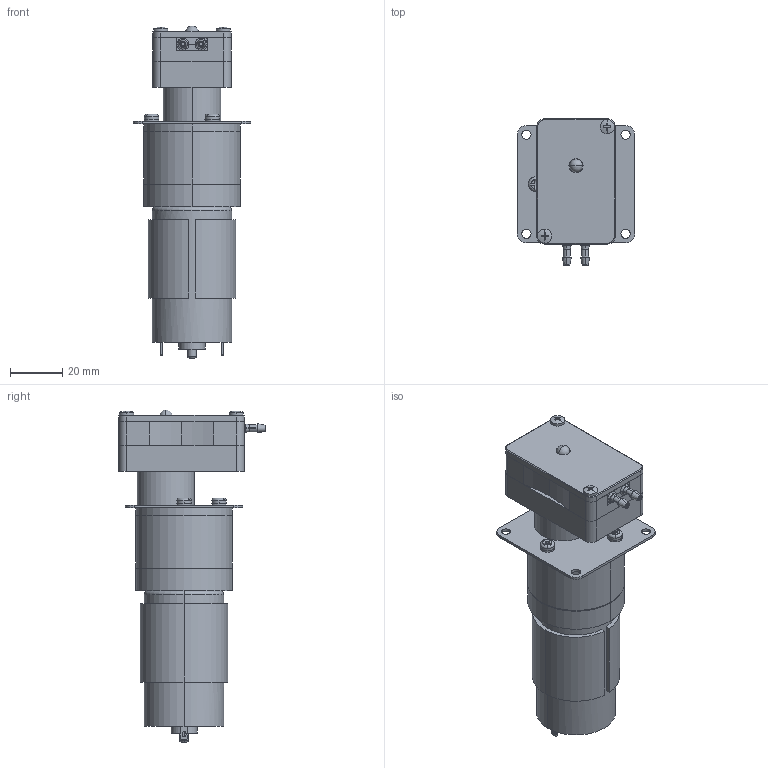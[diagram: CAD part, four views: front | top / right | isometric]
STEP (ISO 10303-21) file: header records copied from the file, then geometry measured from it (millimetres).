
FILE_DESCRIPTION (( 'STEP AP214' ), '1' );
FILE_NAME ('RP-H02S-10A-DC24V - 3452_forWEB.STEP', '2023-11-01T06:36:30', ( '' ), ( '' ), 'SwSTEP 2.0', 'SolidWorks 2023', '' );
FILE_SCHEMA (( 'AUTOMOTIVE_DESIGN' ));
Length unit declared in the file: millimetre
Products named in the file (15): RP-G3N_JOINER_R1_forWEB; MOTOR SCREW_P2; RP-H02S-10A-DC24V - 3452_forWEB_PumpBassAssy; RP-H02S-10A-DC24V - 3452_forWEB; M26x10_Pタイト_CSPBDS2B-ST-TP2_6-10; RIVETRS-STN-W4-8-forWEB_RIVETRS-STN-W4-8; RP-H02S-10A-DC24V - 3452_forWEB_PumpHeadAssy; MOTOR PLATE; hm_4_forWEB; COVER; TP-3452A; TP-3452A-PHM-50-24 ; BASE_forWEB; ROTOR_forWEB; PUMP CASE -A_forWEB
Assembly tree (19 placements, depth 4):
  RP-H02S-10A-DC24V - 3452_forWEB
    RP-H02S-10A-DC24V - 3452_forWEB_PumpBassAssy
      BASE_forWEB
      ROTOR_forWEB
      TP-3452A-PHM-50-24 
        hm_4_forWEB
        MOTOR PLATE
        MOTOR SCREW_P2  x3
        TP-3452A
    RP-H02S-10A-DC24V - 3452_forWEB_PumpHeadAssy
      RP-G3N_JOINER_R1_forWEB
      M26x10_Pタイト_CSPBDS2B-ST-TP2_6-10  x2
      RIVETRS-STN-W4-8-forWEB_RIVETRS-STN-W4-8  x3
      PUMP CASE -A_forWEB
      COVER
Bounding box: 45 x 56.5 x 127.3 mm (x, y, z)
Volume: 111025.9 mm3; surface area: 35644.9 mm2
Topology: 18 solids, 18 shells, 625 faces, 1558 edges, 1013 vertices
Faces by surface type: cylinder 274, plane 258, torus 48, cone 35, sphere 6, bspline 4
Entity records: 15730 total; most frequent: CARTESIAN_POINT 2988, DIRECTION 2795, ORIENTED_EDGE 2424, EDGE_CURVE 1212, AXIS2_PLACEMENT_3D 1120, VERTEX_POINT 791, CIRCLE 601, EDGE_LOOP 587
